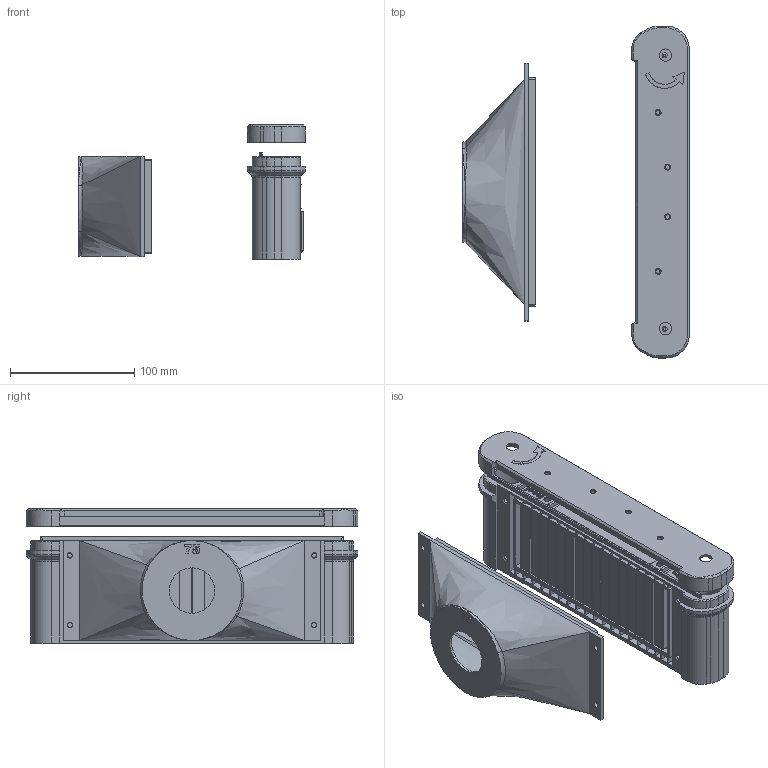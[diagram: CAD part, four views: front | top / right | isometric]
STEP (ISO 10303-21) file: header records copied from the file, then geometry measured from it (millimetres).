
FILE_DESCRIPTION(/* description */ (''),/* implementation_level */ '2;1');
FILE_NAME(/* name */ 'C:/Users/mcjor/3D Objects/6x17 Camera/6x17/v4/v4.stp',/* time_stamp */ '2022-01-01T18:28:04+01:00',/* author */ (''),/* organization */ (''),/* preprocessor_version */ 'ST-DEVELOPER v15.2',/* originating_system */ 'Autodesk Translator Framework v2.0.0.5431',/* authorisation */ '');
FILE_SCHEMA (('AUTOMOTIVE_DESIGN { 1 0 10303 214 3 1 1 }'));
Products named in the file (1): body v4
Bounding box: 182.23 x 267 x 107.91 mm (x, y, z)
Volume: 453705.3 mm3; surface area: 344164.3 mm2
Topology: 42 solids, 42 shells, 3740 faces, 8043 edges, 4432 vertices
Faces by surface type: plane 3300, bspline 238, cylinder 115, cone 58, torus 26, sphere 3
Full cylindrical faces by diameter (mm): 3.8 x4, 3.839 x4, 4 x2, 4.039 x2, 4.239 x4, 10 x3, 21.2 x2, 27.15 x2, 36.6 x1
Entity records: 103513 total; most frequent: CARTESIAN_POINT 25501, ORIENTED_EDGE 15992, DIRECTION 15203, EDGE_CURVE 7996, LINE 6649, VECTOR 6649, VERTEX_POINT 4430, AXIS2_PLACEMENT_3D 4277
